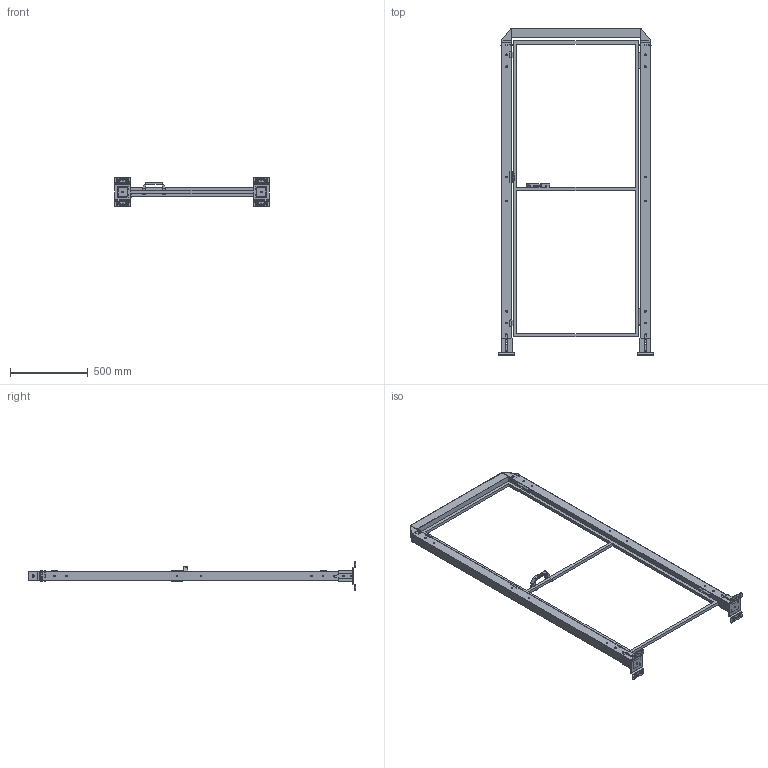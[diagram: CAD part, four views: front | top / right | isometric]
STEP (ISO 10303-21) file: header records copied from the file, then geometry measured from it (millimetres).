
FILE_DESCRIPTION(('STEP AP242'),'1');
FILE_NAME('vfda_bscncr2_08002020.stp','2025-01-23T13:57:03',('TraceParts'),('TraceParts S.A.'),'Spatial InterOp 3D',' ',' ');
FILE_SCHEMA(('AP242_MANAGED_MODEL_BASED_3D_ENGINEERING_MIM_LF {1 0 10303 442 1 1 4}'));
Length unit declared in the file: millimetre
Products named in the file (1): vfda_bscncr2_08002020_1
Bounding box: 990 x 2101 x 192 mm (x, y, z)
Volume: 4701352.4 mm3; surface area: 3070860 mm2
Topology: 12 solids, 12 shells, 1942 faces, 5208 edges, 3340 vertices
Faces by surface type: plane 950, cylinder 652, bspline 236, cone 60, torus 40, sphere 4
Entity records: 78408 total; most frequent: CARTESIAN_POINT 14215, ORIENTED_EDGE 10408, DIRECTION 9578, EDGE_CURVE 5204, VERTEX_POINT 3340, LINE 3216, VECTOR 3216, AXIS2_PLACEMENT_3D 3181
